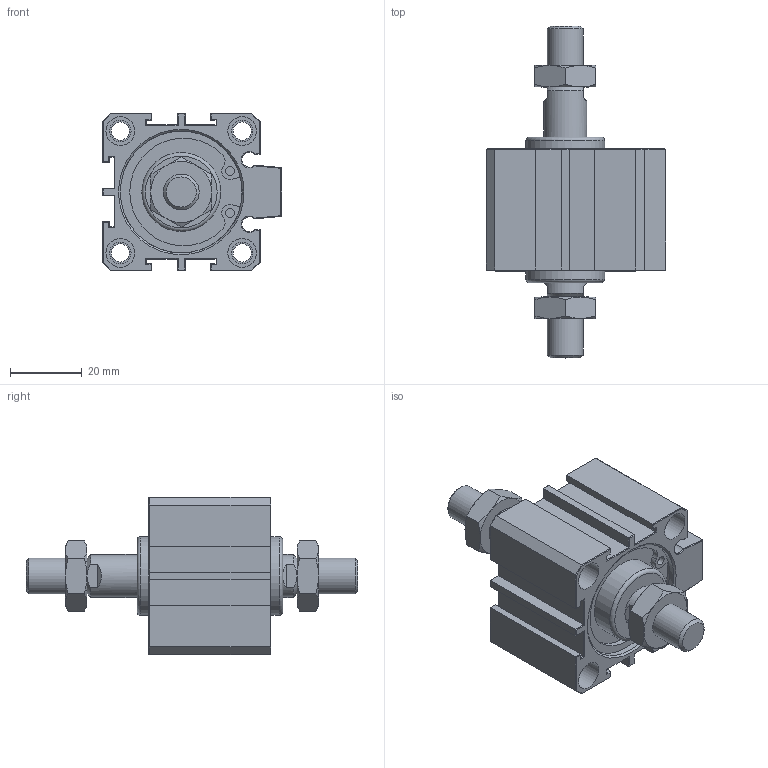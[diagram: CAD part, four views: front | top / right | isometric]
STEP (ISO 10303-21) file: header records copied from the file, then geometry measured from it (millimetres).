
FILE_DESCRIPTION(/* description */ (''),/* implementation_level */ '2;1');
FILE_NAME(/* name */ 'AJC-SW32X10W',/* time_stamp */ '2019-07-02T10:20:07+08:00',/* author */ ('JEFF HUANG'),/* organization */ ('TAIWAN AMAC CLAMP INDUSTRIAL CO., LTD.'),/* preprocessor_version */ 'ST-DEVELOPER v16.7',/* originating_system */ 'DEX',/* authorisation */ $);
FILE_SCHEMA (('AUTOMOTIVE_DESIGN {1 0 10303 214 3 1 1}'));
Length unit declared in the file: millimetre
Products named in the file (1): AJC-SW32X10W
Bounding box: 50 x 92.6 x 44 mm (x, y, z)
Volume: 62008.2 mm3; surface area: 19892.3 mm2
Topology: 1 solids, 2 shells, 303 faces, 663 edges, 394 vertices
Faces by surface type: plane 212, cylinder 49, cone 38, torus 2, sphere 2
Full cylindrical faces by diameter (mm): 2.5 x4, 5.1 x4, 6 x8, 8 x8, 9.147 x2, 10 x2, 12 x1, 22 x2, 34 x2
Entity records: 10009 total; most frequent: CARTESIAN_POINT 1494, DIRECTION 1304, ORIENTED_EDGE 1224, EDGE_CURVE 612, AXIS2_PLACEMENT_3D 452, LINE 400, VECTOR 400, VERTEX_POINT 386
